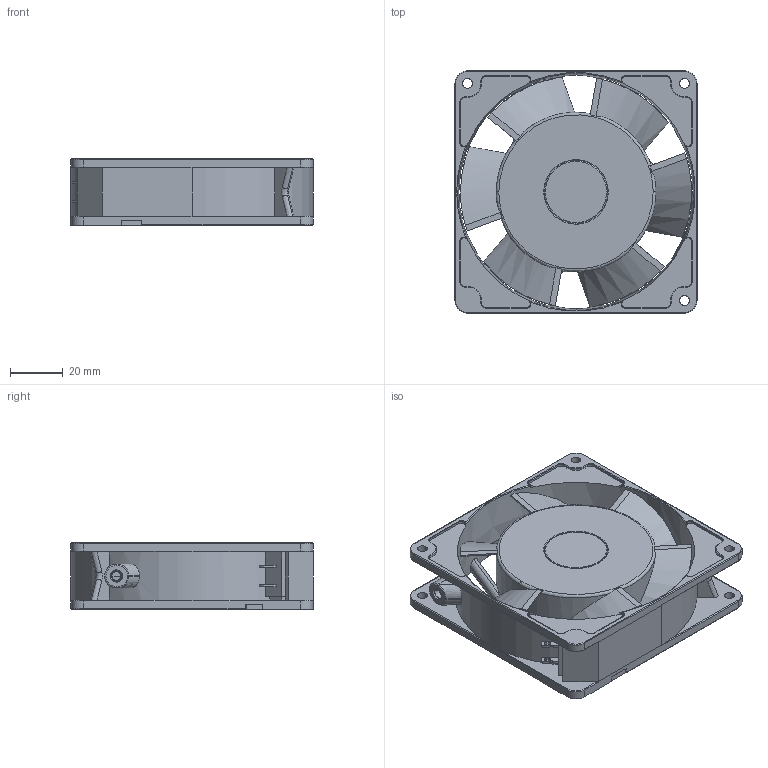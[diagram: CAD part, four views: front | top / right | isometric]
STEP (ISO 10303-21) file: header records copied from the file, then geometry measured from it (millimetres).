
FILE_DESCRIPTION (( 'STEP AP203' ), '1' );
FILE_NAME ('□92mmX25mm.STEP', '2017-07-05T02:34:32', ( '' ), ( '' ), 'SwSTEP 2.0', 'SolidWorks 2017', '' );
FILE_SCHEMA (( 'CONFIG_CONTROL_DESIGN' ));
Length unit declared in the file: millimetre
Products named in the file (1): □92mmX25mm
Bounding box: 92 x 92 x 25.3 mm (x, y, z)
Volume: 99255.9 mm3; surface area: 41779.1 mm2
Topology: 1 solids, 1 shells, 537 faces, 1462 edges, 915 vertices
Faces by surface type: cylinder 189, plane 168, bspline 83, torus 73, cone 24
Entity records: 36627 total; most frequent: CARTESIAN_POINT 23651, ORIENTED_EDGE 2896, DIRECTION 2510, EDGE_CURVE 1448, AXIS2_PLACEMENT_3D 978, VERTEX_POINT 915, EDGE_LOOP 563, VECTOR 554
